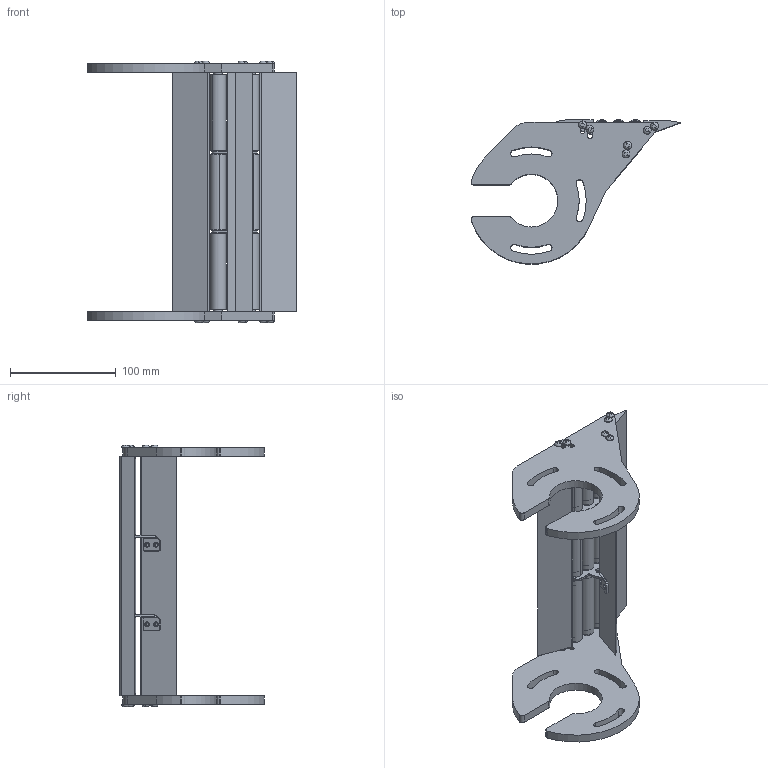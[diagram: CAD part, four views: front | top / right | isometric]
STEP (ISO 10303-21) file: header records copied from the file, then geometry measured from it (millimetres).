
FILE_DESCRIPTION (( 'STEP AP214' ), '1' );
FILE_NAME ('F2 750 TGRI 2M.STEP', '2024-02-26T14:50:37', ( '' ), ( '' ), 'SwSTEP 2.0', 'SolidWorks 2022', '' );
FILE_SCHEMA (( 'AUTOMOTIVE_DESIGN' ));
Length unit declared in the file: millimetre
Products named in the file (15): PT-F2 - F2-750 percé; PSTI F2 2M Symétrie; ROULEMENT TGRI CAB-F2-R-HEF; PT-F2 - F2-750; TBHC 4X16; ENTRETOISE TGRI CAB-F2-R-HEF; AXE TGRI F2 750; PSTI F2 2M; SA TGRI + ENTRETOISE; Galet + roulement F2 750; Insert M4 TB; GR F2 750; SA TGRI; F2 750 TGRI 2M; ENTRETOISE SA TGRI
Assembly tree (48 placements, depth 3):
  F2 750 TGRI 2M
    PSTI F2 2M Symétrie
    PSTI F2 2M
    PT-F2 - F2-750 percé
    PT-F2 - F2-750  x2
    AXE TGRI F2 750  x3
    Galet + roulement F2 750  x9
      GR F2 750
      ROULEMENT TGRI CAB-F2-R-HEF
    ENTRETOISE TGRI CAB-F2-R-HEF  x6
    SA TGRI + ENTRETOISE  x2
      SA TGRI
      ENTRETOISE SA TGRI
    TBHC 4X16  x12
    Insert M4 TB  x4
Bounding box: 198.67 x 136.6 x 247.78 mm (x, y, z)
Volume: 472456.8 mm3; surface area: 209049 mm2
Topology: 65 solids, 65 shells, 2863 faces, 6209 edges, 3548 vertices
Faces by surface type: cone 1520, cylinder 656, plane 397, torus 254, sphere 26, bspline 10
Entity records: 18656 total; most frequent: CARTESIAN_POINT 3424, DIRECTION 3299, ORIENTED_EDGE 2732, EDGE_CURVE 1366, AXIS2_PLACEMENT_3D 1341, VERTEX_POINT 827, CIRCLE 711, EDGE_LOOP 647
